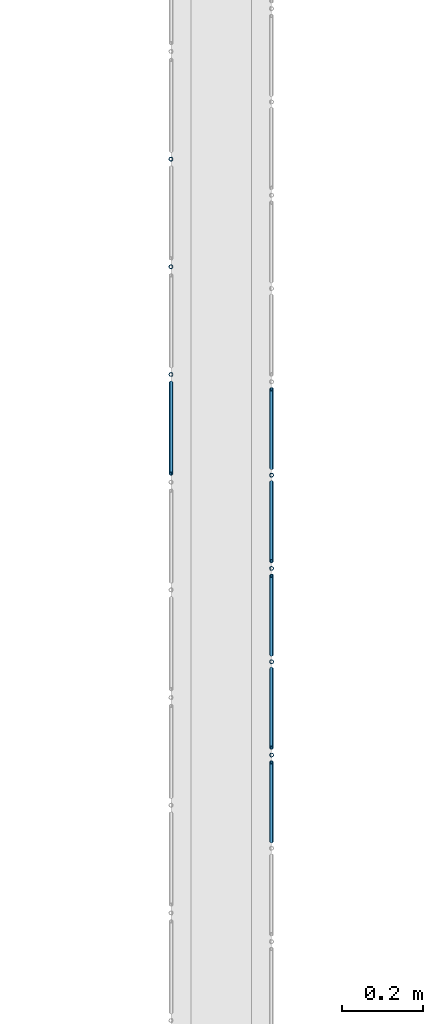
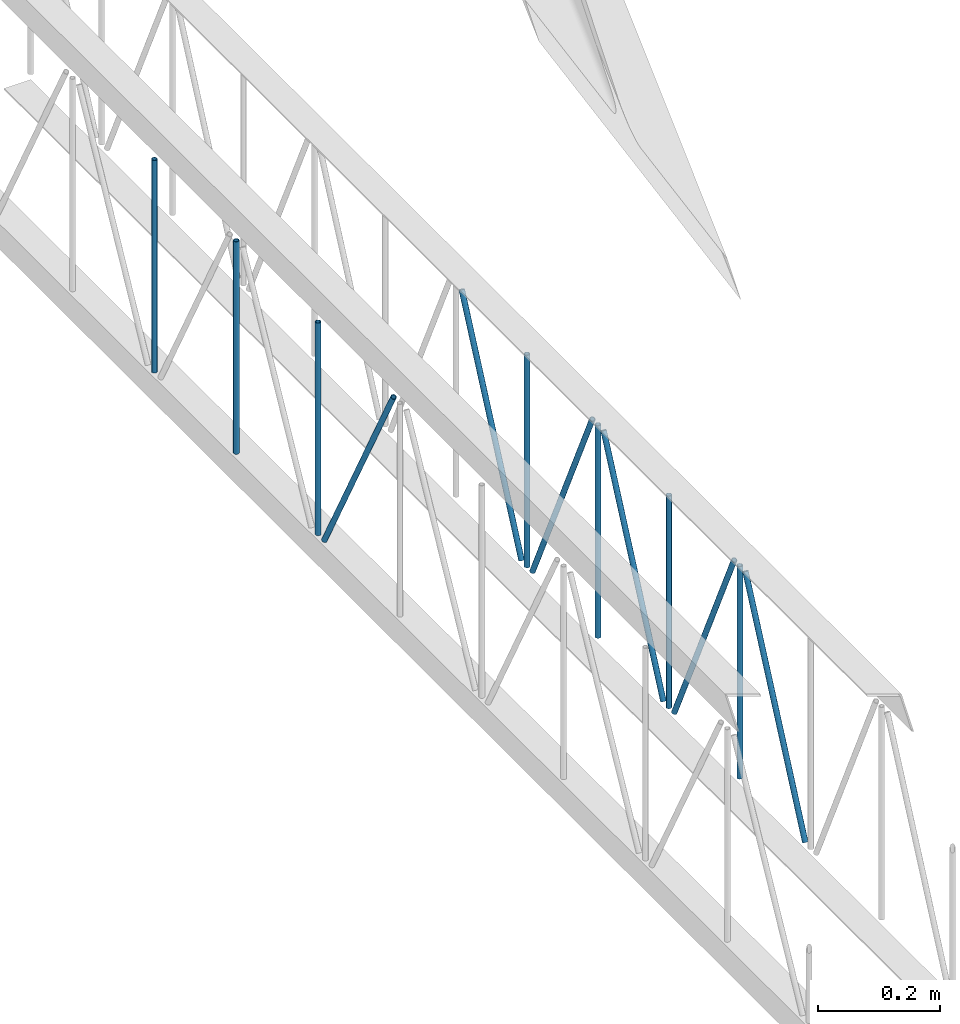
# One storey, part 19 of 153: 13 members, 2 elements without a shape of their own.
"""IFC4 building model written with IfcOpenShell, lengths in metres."""

from ifc_helpers import new_model, entity, si_unit, converted_unit, derived_unit, direction, frame, origin, place, context, subcontext, project, spatial, arc, indexed_curve, outline, extrude, source, transform, mapped, material, type_object, type_shapes, element, aggregate, save


model = new_model("IFC4")

# Units and contexts
model_context = context("Model", 3, precision=1e-05, world=origin(), true_north=direction((6.123031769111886e-17, 1.0)))
body_context = subcontext(model_context, "Body", "Model", "MODEL_VIEW")
ifc_project = project(units=[si_unit("LENGTHUNIT", "METRE"), si_unit("AREAUNIT", "SQUARE_METRE"), si_unit("VOLUMEUNIT", "CUBIC_METRE"), converted_unit("PLANEANGLEUNIT", "DEGREE", entity("IfcRatioMeasure", 0.017453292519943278), si_unit("PLANEANGLEUNIT", "RADIAN"), dimensions=[0, 0, 0, 0, 0, 0, 0]), si_unit("MASSUNIT", "GRAM", prefix="KILO"), derived_unit("MASSDENSITYUNIT", [(si_unit("MASSUNIT", "GRAM", prefix="KILO"), 1), (si_unit("LENGTHUNIT", "METRE"), -3)]), derived_unit("MOMENTOFINERTIAUNIT", [(si_unit("LENGTHUNIT", "METRE"), 4)]), si_unit("TIMEUNIT", "SECOND"), si_unit("FREQUENCYUNIT", "HERTZ"), si_unit("THERMODYNAMICTEMPERATUREUNIT", "DEGREE_CELSIUS"), derived_unit("THERMALTRANSMITTANCEUNIT", [(si_unit("MASSUNIT", "GRAM", prefix="KILO"), 1), (si_unit("THERMODYNAMICTEMPERATUREUNIT", "KELVIN"), -1), (si_unit("TIMEUNIT", "SECOND"), -3)]), derived_unit("VOLUMETRICFLOWRATEUNIT", [(si_unit("LENGTHUNIT", "METRE"), 3), (si_unit("TIMEUNIT", "SECOND"), -1)]), derived_unit("MASSFLOWRATEUNIT", [(si_unit("MASSUNIT", "GRAM", prefix="KILO"), 1), (si_unit("TIMEUNIT", "SECOND"), -1)]), derived_unit("ROTATIONALFREQUENCYUNIT", [(si_unit("TIMEUNIT", "SECOND"), -1)]), si_unit("ELECTRICCURRENTUNIT", "AMPERE"), si_unit("ELECTRICVOLTAGEUNIT", "VOLT"), si_unit("POWERUNIT", "WATT"), si_unit("FORCEUNIT", "NEWTON", prefix="KILO"), si_unit("ILLUMINANCEUNIT", "LUX"), si_unit("LUMINOUSFLUXUNIT", "LUMEN"), si_unit("LUMINOUSINTENSITYUNIT", "CANDELA"), derived_unit("USERDEFINED", [(si_unit("MASSUNIT", "GRAM", prefix="KILO"), -1), (si_unit("LENGTHUNIT", "METRE"), -2), (si_unit("TIMEUNIT", "SECOND"), 3), (si_unit("LUMINOUSFLUXUNIT", "LUMEN"), 1)]), derived_unit("SOUNDPOWERUNIT", [(si_unit("MASSUNIT", "GRAM", prefix="KILO"), 1), (si_unit("LENGTHUNIT", "METRE"), 2), (si_unit("TIMEUNIT", "SECOND"), -3)]), derived_unit("SOUNDPRESSUREUNIT", [(si_unit("MASSUNIT", "GRAM", prefix="KILO"), 1), (si_unit("LENGTHUNIT", "METRE"), -1), (si_unit("TIMEUNIT", "SECOND"), -2)]), derived_unit("LINEARVELOCITYUNIT", [(si_unit("LENGTHUNIT", "METRE"), 1), (si_unit("TIMEUNIT", "SECOND"), -1)]), si_unit("PRESSUREUNIT", "PASCAL"), derived_unit("USERDEFINED", [(si_unit("LENGTHUNIT", "METRE"), -2), (si_unit("MASSUNIT", "GRAM", prefix="KILO"), 1), (si_unit("TIMEUNIT", "SECOND"), -2)]), derived_unit("LINEARFORCEUNIT", [(si_unit("MASSUNIT", "GRAM", prefix="KILO"), 1), (si_unit("LENGTHUNIT", "METRE"), 1), (si_unit("TIMEUNIT", "SECOND"), -2), (si_unit("LENGTHUNIT", "METRE"), -1)]), derived_unit("PLANARFORCEUNIT", [(si_unit("MASSUNIT", "GRAM", prefix="KILO"), 1), (si_unit("LENGTHUNIT", "METRE"), 1), (si_unit("TIMEUNIT", "SECOND"), -2), (si_unit("LENGTHUNIT", "METRE"), -2)])], contexts=[model_context])

# Site, building, storey
site_placement = place(None, origin())
site = spatial("IfcSite", under=ifc_project, at=site_placement, Name="Superficie", CompositionType="ELEMENT")
building_placement = place(site_placement, origin())
building = spatial("IfcBuilding", under=site, at=building_placement, CompositionType="ELEMENT")
storey_placement = place(building_placement, frame((0.0, 0.0, 3.5999999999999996)))
storey = spatial("IfcBuildingStorey", under=building, at=storey_placement, Name="Nivel 1", CompositionType="ELEMENT", Elevation=3.5999999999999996)

# Assembly, members
assembly_1_placement = place(storey_placement, origin())
assembly_1 = element("IfcElementAssembly", 1, at=assembly_1_placement, inside=storey, Name="Viga de celosia 13:Viga de celosia 13", ObjectType="Viga de celosia 13:Viga de celosia 13", AssemblyPlace="NOTDEFINED", PredefinedType="TRUSS")
ifc_material = material(Name="Metal - Calibre delgado", Category="Metal")
member_type_1 = type_object("IfcMemberType", Name="HSS-Tubo estructural redondo:HSS 0.01", PredefinedType="BRACE", material=ifc_material)
shared_shape_1 = source(origin(), body_context, "Body", "SweptSolid", [
    extrude(outline(indexed_curve([(-0.005000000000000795, 7.502054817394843e-18), (-9.800269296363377e-18, -0.005000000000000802), (0.005000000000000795, -7.502054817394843e-18), (8.07772287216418e-18, 0.005000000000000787)], segments=[arc(1, 2, 3), arc(3, 4, 1)], self_intersect=False), holes=[indexed_curve([(0.003999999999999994, 7.222511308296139e-17), (6.910645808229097e-17, -0.004000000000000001), (-0.003999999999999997, -1.8650054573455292e-17), (-2.9156497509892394e-17, 0.003999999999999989)], segments=[arc(1, 2, 3), arc(3, 4, 1)], self_intersect=False)]), frame((-0.21200000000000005, 0.0, 0.0), z_axis=(1.0, 0.0, 0.0), x_axis=(0.0, 1.0, 0.0)), (0.0, 0.0, 1.0), 0.4240000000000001),
])
type_shapes(member_type_1, [shared_shape_1])
member_1_placement = place(assembly_1_placement, frame((-13.813200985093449, -11.07100251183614, 0.24999999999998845), z_axis=(0.0, 1.0, 0.0), x_axis=(0.0, 0.0, 1.0)))
member_1 = element("IfcMember", 2, at=member_1_placement, type_object=member_type_1, material=ifc_material, Name="HSS-Tubo estructural redondo:HSS 0.01", ObjectType="HSS-Tubo estructural redondo:HSS 0.01", PredefinedType="BRACE", context=body_context, shape_type="MappedRepresentation", body=[
    mapped(shared_shape_1, transform((0.0, 0.0, 0.0), scale=1.0)),
])
member_2_placement = place(assembly_1_placement, frame((-13.813200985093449, -10.80350251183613, 0.25), z_axis=(0.0, 1.0, 0.0), x_axis=(0.0, 0.0, 1.0)))
member_2 = element("IfcMember", 3, at=member_2_placement, type_object=member_type_1, material=ifc_material, Name="HSS-Tubo estructural redondo:HSS 0.01", ObjectType="HSS-Tubo estructural redondo:HSS 0.01", PredefinedType="BRACE", context=body_context, shape_type="MappedRepresentation", body=[
    mapped(shared_shape_1, transform((0.0, 0.0, 0.0), scale=1.0)),
])
member_3_placement = place(assembly_1_placement, frame((-13.813200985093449, -10.536002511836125, 0.25), z_axis=(0.0, 1.0, 0.0), x_axis=(0.0, 0.0, 1.0)))
member_3 = element("IfcMember", 4, at=member_3_placement, type_object=member_type_1, material=ifc_material, Name="HSS-Tubo estructural redondo:HSS 0.01", ObjectType="HSS-Tubo estructural redondo:HSS 0.01", PredefinedType="BRACE", context=body_context, shape_type="MappedRepresentation", body=[
    mapped(shared_shape_1, transform((0.0, 0.0, 0.0), scale=1.0)),
])

assembly_2_placement = place(storey_placement, origin())
assembly_2 = element("IfcElementAssembly", 5, at=assembly_2_placement, inside=storey, Name="Viga de celosia 13:Viga de celosia 13", ObjectType="Viga de celosia 13:Viga de celosia 13", AssemblyPlace="NOTDEFINED", PredefinedType="TRUSS")
member_type_2 = type_object("IfcMemberType", Name="HSS-Tubo estructural redondo:HSS 0.01", PredefinedType="BRACE", material=ifc_material)
shared_shape_2 = source(origin(), body_context, "Body", "SweptSolid", [
    extrude(outline(indexed_curve([(-0.005000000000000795, 2.0824731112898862e-17), (-2.3122945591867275e-17, -0.005000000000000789), (0.005000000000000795, -2.08247311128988e-17), (2.14003991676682e-17, 0.005000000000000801)], segments=[arc(1, 2, 3), arc(3, 4, 1)], self_intersect=False), holes=[indexed_curve([(0.003999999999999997, -1.3094283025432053e-17), (-1.531427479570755e-18, -0.003999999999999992), (-0.004, 4.0098531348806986e-17), (4.1481388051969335e-17, 0.0039999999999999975)], segments=[arc(1, 2, 3), arc(3, 4, 1)], self_intersect=False)]), frame((-0.21200000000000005, 0.0, 0.0), z_axis=(1.0, 0.0, 0.0), x_axis=(0.0, -1.0, 0.0)), (0.0, 0.0, 1.0), 0.4240000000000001),
])
type_shapes(member_type_2, [shared_shape_2])
member_4_placement = place(assembly_2_placement, frame((-13.563200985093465, -12.016359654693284, 0.25), z_axis=(0.0, 1.0, 0.0), x_axis=(0.0, 0.0, 1.0)))
member_4 = element("IfcMember", 6, at=member_4_placement, type_object=member_type_2, material=ifc_material, Name="HSS-Tubo estructural redondo:HSS 0.01", ObjectType="HSS-Tubo estructural redondo:HSS 0.01", PredefinedType="BRACE", context=body_context, shape_type="MappedRepresentation", body=[
    mapped(shared_shape_2, transform((0.0, 0.0, 0.0), scale=1.0)),
])
member_5_placement = place(assembly_2_placement, frame((-13.563200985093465, -11.784573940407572, 0.25), z_axis=(0.0, 1.0, 0.0), x_axis=(0.0, 0.0, 1.0)))
member_5 = element("IfcMember", 7, at=member_5_placement, type_object=member_type_2, material=ifc_material, Name="HSS-Tubo estructural redondo:HSS 0.01", ObjectType="HSS-Tubo estructural redondo:HSS 0.01", PredefinedType="BRACE", context=body_context, shape_type="MappedRepresentation", body=[
    mapped(shared_shape_2, transform((0.0, 0.0, 0.0), scale=1.0)),
])
member_6_placement = place(assembly_2_placement, frame((-13.563200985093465, -11.552788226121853, 0.25), z_axis=(0.0, 1.0, 0.0), x_axis=(0.0, 0.0, 1.0)))
member_6 = element("IfcMember", 8, at=member_6_placement, type_object=member_type_2, material=ifc_material, Name="HSS-Tubo estructural redondo:HSS 0.01", ObjectType="HSS-Tubo estructural redondo:HSS 0.01", PredefinedType="BRACE", context=body_context, shape_type="MappedRepresentation", body=[
    mapped(shared_shape_2, transform((0.0, 0.0, 0.0), scale=1.0)),
])
member_7_placement = place(assembly_2_placement, frame((-13.563200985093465, -11.321002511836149, 0.24999999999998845), z_axis=(0.0, 1.0, 0.0), x_axis=(0.0, 0.0, 1.0)))
member_7 = element("IfcMember", 9, at=member_7_placement, type_object=member_type_2, material=ifc_material, Name="HSS-Tubo estructural redondo:HSS 0.01", ObjectType="HSS-Tubo estructural redondo:HSS 0.01", PredefinedType="BRACE", context=body_context, shape_type="MappedRepresentation", body=[
    mapped(shared_shape_2, transform((0.0, 0.0, 0.0), scale=1.0)),
])

# Member
member_type_3 = type_object("IfcMemberType", Name="HSS-Tubo estructural redondo:HSS 0.01", PredefinedType="BRACE", material=ifc_material)
shared_shape_3 = source(origin(), body_context, "Body", "SweptSolid", [
    extrude(outline(indexed_curve([(-0.005000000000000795, 7.502054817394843e-18), (-9.800269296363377e-18, -0.005000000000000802), (0.005000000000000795, -7.502054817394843e-18), (8.07772287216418e-18, 0.005000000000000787)], segments=[arc(1, 2, 3), arc(3, 4, 1)], self_intersect=False), holes=[indexed_curve([(0.003999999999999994, 7.222511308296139e-17), (6.910645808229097e-17, -0.004000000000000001), (-0.003999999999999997, -1.8650054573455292e-17), (-2.9156497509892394e-17, 0.003999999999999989)], segments=[arc(1, 2, 3), arc(3, 4, 1)], self_intersect=False)]), frame((-0.23950000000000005, 0.0, 0.0), z_axis=(1.0, 0.0, 0.0), x_axis=(0.0, 1.0, 0.0)), (0.0, 0.0, 1.0), 0.4790000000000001),
])
type_shapes(member_type_3, [shared_shape_3])
member_8_placement = place(assembly_1_placement, frame((-13.813200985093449, -11.20475251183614, 0.2499999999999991), z_axis=(0.0, -0.8817419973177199, -0.47173196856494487), x_axis=(0.0, 0.47173196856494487, -0.8817419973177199)))
member_8 = element("IfcMember", 10, at=member_8_placement, type_object=member_type_3, material=ifc_material, Name="HSS-Tubo estructural redondo:HSS 0.01", ObjectType="HSS-Tubo estructural redondo:HSS 0.01", PredefinedType="BRACE", context=body_context, shape_type="MappedRepresentation", body=[
    mapped(shared_shape_3, transform((0.0, 0.0, 0.0), scale=1.0)),
])

aggregate(assembly_1, [member_1, member_2, member_3, member_8])

member_type_4 = type_object("IfcMemberType", Name="HSS-Tubo estructural redondo:HSS 0.01", PredefinedType="BRACE", material=ifc_material)
shared_shape_4 = source(origin(), body_context, "Body", "SweptSolid", [
    extrude(outline(indexed_curve([(-0.005000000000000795, 2.0824731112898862e-17), (-2.3122945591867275e-17, -0.005000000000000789), (0.005000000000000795, -2.08247311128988e-17), (2.14003991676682e-17, 0.005000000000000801)], segments=[arc(1, 2, 3), arc(3, 4, 1)], self_intersect=False), holes=[indexed_curve([(0.003999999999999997, -1.3094283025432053e-17), (-1.531427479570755e-18, -0.003999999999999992), (-0.004, 4.0098531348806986e-17), (4.1481388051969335e-17, 0.0039999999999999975)], segments=[arc(1, 2, 3), arc(3, 4, 1)], self_intersect=False)]), frame((-0.2325, 0.0, 0.0), z_axis=(1.0, 0.0, 0.0), x_axis=(0.0, -1.0, 0.0)), (0.0, 0.0, 1.0), 0.465),
])
type_shapes(member_type_4, [shared_shape_4])
member_9_placement = place(assembly_2_placement, frame((-13.563200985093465, -12.132252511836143, 0.2500000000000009), z_axis=(0.0, 0.9072563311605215, -0.4205781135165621), x_axis=(0.0, 0.4205781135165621, 0.9072563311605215)))
member_9 = element("IfcMember", 11, at=member_9_placement, type_object=member_type_4, material=ifc_material, Name="HSS-Tubo estructural redondo:HSS 0.01", ObjectType="HSS-Tubo estructural redondo:HSS 0.01", PredefinedType="BRACE", context=body_context, shape_type="MappedRepresentation", body=[
    mapped(shared_shape_4, transform((0.0, 0.0, 0.0), scale=1.0)),
])

member_10_placement = place(assembly_2_placement, frame((-13.563200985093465, -11.900466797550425, 0.25), z_axis=(0.0, -0.907256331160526, -0.4205781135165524), x_axis=(0.0, 0.4205781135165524, -0.907256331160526)))
member_10 = element("IfcMember", 12, at=member_10_placement, type_object=member_type_4, material=ifc_material, Name="HSS-Tubo estructural redondo:HSS 0.01", ObjectType="HSS-Tubo estructural redondo:HSS 0.01", PredefinedType="BRACE", context=body_context, shape_type="MappedRepresentation", body=[
    mapped(shared_shape_4, transform((0.0, 0.0, 0.0), scale=1.0)),
])

member_11_placement = place(assembly_2_placement, frame((-13.563200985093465, -11.668681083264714, 0.25), z_axis=(0.0, 0.90725633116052, -0.4205781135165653), x_axis=(0.0, 0.4205781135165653, 0.90725633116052)))
member_11 = element("IfcMember", 13, at=member_11_placement, type_object=member_type_4, material=ifc_material, Name="HSS-Tubo estructural redondo:HSS 0.01", ObjectType="HSS-Tubo estructural redondo:HSS 0.01", PredefinedType="BRACE", context=body_context, shape_type="MappedRepresentation", body=[
    mapped(shared_shape_4, transform((0.0, 0.0, 0.0), scale=1.0)),
])

member_12_placement = place(assembly_2_placement, frame((-13.563200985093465, -11.436895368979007, 0.25), z_axis=(0.0, -0.9072563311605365, -0.4205781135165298), x_axis=(0.0, 0.4205781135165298, -0.9072563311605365)))
member_12 = element("IfcMember", 14, at=member_12_placement, type_object=member_type_4, material=ifc_material, Name="HSS-Tubo estructural redondo:HSS 0.01", ObjectType="HSS-Tubo estructural redondo:HSS 0.01", PredefinedType="BRACE", context=body_context, shape_type="MappedRepresentation", body=[
    mapped(shared_shape_4, transform((0.0, 0.0, 0.0), scale=1.0)),
])

member_13_placement = place(assembly_2_placement, frame((-13.563200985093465, -11.205109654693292, 0.25), z_axis=(0.0, 0.907256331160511, -0.42057811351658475), x_axis=(0.0, 0.42057811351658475, 0.907256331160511)))
member_13 = element("IfcMember", 15, at=member_13_placement, type_object=member_type_4, material=ifc_material, Name="HSS-Tubo estructural redondo:HSS 0.01", ObjectType="HSS-Tubo estructural redondo:HSS 0.01", PredefinedType="BRACE", context=body_context, shape_type="MappedRepresentation", body=[
    mapped(shared_shape_4, transform((0.0, 0.0, 0.0), scale=1.0)),
])

aggregate(assembly_2, [member_4, member_5, member_6, member_7, member_9, member_10, member_11, member_12, member_13])

save(model, "model.ifc")
